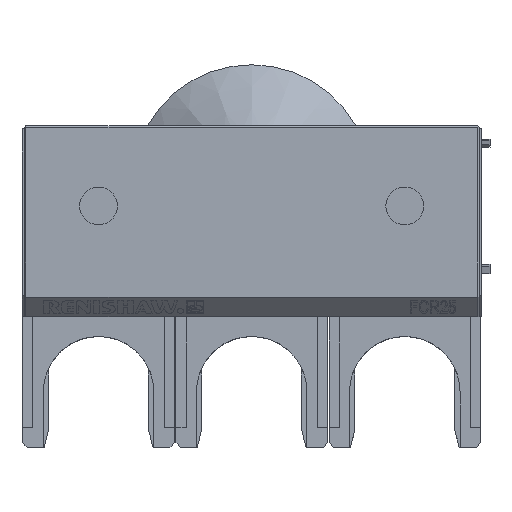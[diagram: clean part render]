
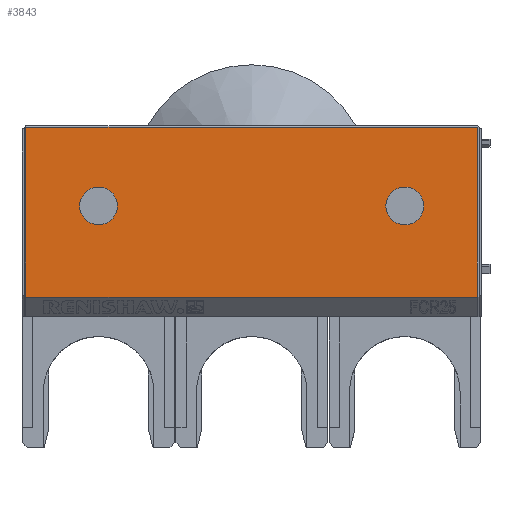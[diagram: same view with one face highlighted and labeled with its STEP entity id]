
A CAD part, top view. The second image highlights one B-rep face of the part: STEP entity #3843.
In plain terms, the highlighted planar face has unit normal (0, 0, 1).
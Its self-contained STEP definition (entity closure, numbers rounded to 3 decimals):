
#2741=LINE('',#12355,#3404);
#2743=LINE('',#12359,#3406);
#2745=LINE('',#12363,#3408);
#2746=LINE('',#12365,#3409);
#3404=VECTOR('',#9881,1.);
#3406=VECTOR('',#9885,1.);
#3408=VECTOR('',#9889,1.);
#3409=VECTOR('',#9892,1.);
#3559=FACE_BOUND('',#4675,.T.);
#3560=FACE_BOUND('',#4676,.T.);
#3561=FACE_BOUND('',#4677,.T.);
#3843=ADVANCED_FACE('',(#3559,#3560,#3561),#4077,.T.);
#4077=PLANE('',#8405);
#4675=EDGE_LOOP('',(#6376));
#4676=EDGE_LOOP('',(#6377));
#4677=EDGE_LOOP('',(#6378,#6379,#6380,#6381));
#6376=ORIENTED_EDGE('',*,*,#7868,.F.);
#6377=ORIENTED_EDGE('',*,*,#7869,.F.);
#6378=ORIENTED_EDGE('',*,*,#7870,.T.);
#6379=ORIENTED_EDGE('',*,*,#7872,.T.);
#6380=ORIENTED_EDGE('',*,*,#7874,.T.);
#6381=ORIENTED_EDGE('',*,*,#7875,.T.);
#7012=VERTEX_POINT('',#12322);
#7019=VERTEX_POINT('',#12346);
#7020=VERTEX_POINT('',#12350);
#7021=VERTEX_POINT('',#12353);
#7022=VERTEX_POINT('',#12358);
#7023=VERTEX_POINT('',#12362);
#7868=EDGE_CURVE('',#7020,#7020,#7990,.T.);
#7869=EDGE_CURVE('',#7021,#7021,#7991,.T.);
#7870=EDGE_CURVE('',#7019,#7012,#2741,.T.);
#7872=EDGE_CURVE('',#7012,#7022,#2743,.T.);
#7874=EDGE_CURVE('',#7022,#7023,#2745,.T.);
#7875=EDGE_CURVE('',#7023,#7019,#2746,.T.);
#7990=CIRCLE('',#8397,4.35);
#7991=CIRCLE('',#8399,4.35);
#8397=AXIS2_PLACEMENT_3D('',#12349,#9873,#9874);
#8399=AXIS2_PLACEMENT_3D('',#12352,#9877,#9878);
#8405=AXIS2_PLACEMENT_3D('',#12367,#9895,#9896);
#9873=DIRECTION('',(0.,0.,1.));
#9874=DIRECTION('',(0.,-1.,0.));
#9877=DIRECTION('',(0.,0.,1.));
#9878=DIRECTION('',(0.,-1.,0.));
#9881=DIRECTION('',(1.,0.,0.));
#9885=DIRECTION('',(0.,1.,0.));
#9889=DIRECTION('',(-1.,0.,0.));
#9892=DIRECTION('',(0.,-1.,0.));
#9895=DIRECTION('',(0.,0.,1.));
#9896=DIRECTION('',(0.,-1.,0.));
#12322=CARTESIAN_POINT('',(87.225,21.75,18.21));
#12346=CARTESIAN_POINT('',(-16.725,21.75,18.21));
#12349=CARTESIAN_POINT('',(70.5,42.75,18.21));
#12350=CARTESIAN_POINT('',(70.5,38.4,18.21));
#12352=CARTESIAN_POINT('',(0.,42.75,18.21));
#12353=CARTESIAN_POINT('',(0.,38.4,18.21));
#12355=CARTESIAN_POINT('',(35.25,21.75,18.21));
#12358=CARTESIAN_POINT('',(87.225,60.85,18.21));
#12359=CARTESIAN_POINT('',(87.225,60.85,18.21));
#12362=CARTESIAN_POINT('',(-16.725,60.85,18.21));
#12363=CARTESIAN_POINT('',(35.25,60.85,18.21));
#12365=CARTESIAN_POINT('',(-16.725,21.75,18.21));
#12367=CARTESIAN_POINT('',(35.25,39.25,18.21));
